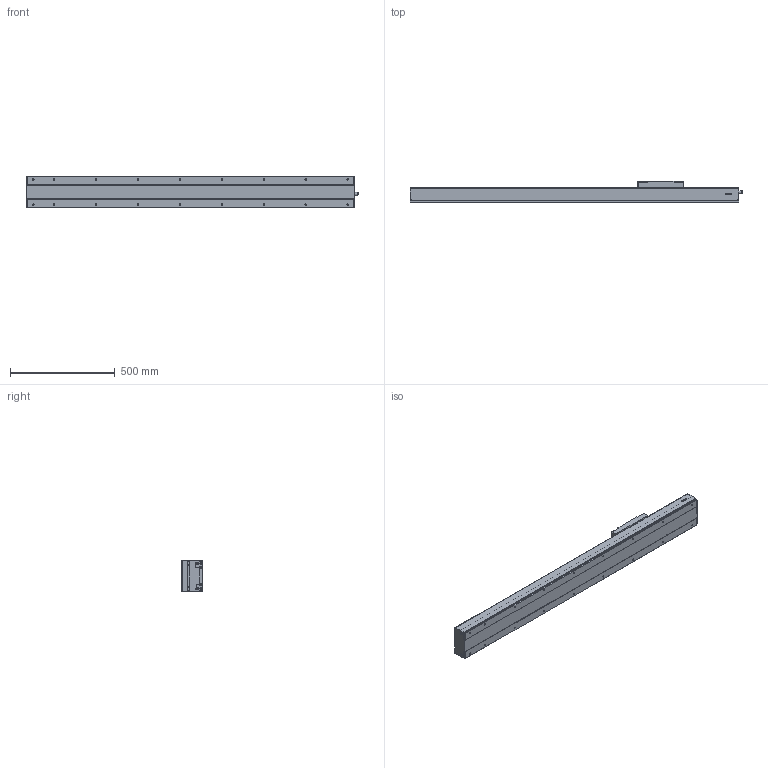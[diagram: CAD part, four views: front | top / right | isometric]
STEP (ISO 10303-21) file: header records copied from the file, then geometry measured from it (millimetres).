
FILE_DESCRIPTION(/* description */ (''),/* implementation_level */ '2;1');
FILE_NAME(/* name */ 'D:\混合母檔20191031\混和母檔\混和母檔\bin\Debug\Download\3D\KS150-10C-1050AFI\KS150-10C-1050AFI.stp',/* time_stamp */ '2019-11-04T15:52:36+08:00',/* author */ ('user'),/* organization */ (''),/* preprocessor_version */ 'ST-DEVELOPER v16.13',/* originating_system */ 'Autodesk Inventor 2018',/* authorisation */ '');
FILE_SCHEMA (('AUTOMOTIVE_DESIGN { 1 0 10303 214 3 1 1 }'));
Length unit declared in the file: millimetre
Products named in the file (3): KS150-10C-1050AFI; KS150-FI; KS150-SL
Assembly tree (2 placements, depth 2):
  KS150-10C-1050AFI
    KS150-FI
    KS150-SL
Bounding box: 1585.05 x 100 x 152.4 mm (x, y, z)
Volume: 6407432.4 mm3; surface area: 1543620.3 mm2
Topology: 4 solids, 8 shells, 1249 faces, 3295 edges, 2136 vertices
Faces by surface type: plane 615, cone 232, cylinder 194, bspline 136, torus 68, sphere 4
Full cylindrical faces by diameter (mm): 3.242 x12, 3.571 x8, 4.134 x4, 4.5 x8, 4.509 x6, 4.917 x4, 5 x18, 5.5 x12, 6 x2, 6.647 x22, 8 x4, 8.4 x8, 9.3 x12, 10.437 x1, 12 x1, 14 x1, 15 x1, 15.538 x1, 23 x1, 46 x1, 50 x1
Entity records: 41128 total; most frequent: CARTESIAN_POINT 12744, ORIENTED_EDGE 5856, DIRECTION 5457, EDGE_CURVE 2928, VERTEX_POINT 2024, AXIS2_PLACEMENT_3D 1896, LINE 1665, VECTOR 1665
